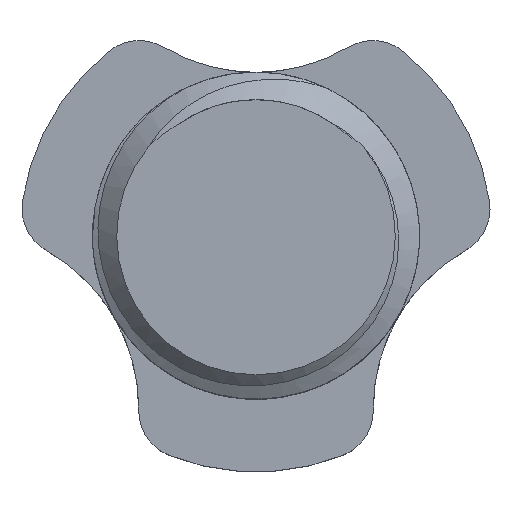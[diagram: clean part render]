
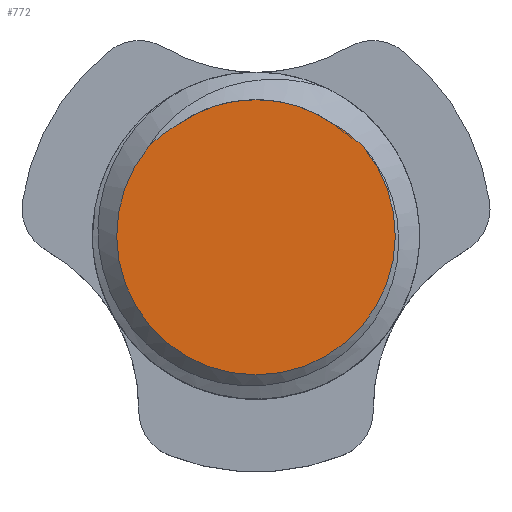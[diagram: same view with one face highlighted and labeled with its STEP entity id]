
A CAD part, top view. The second image highlights one B-rep face of the part: STEP entity #772.
In plain terms, the highlighted planar face has unit normal (0, 0, 1).
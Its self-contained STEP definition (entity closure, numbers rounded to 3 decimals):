
#37=PLANE('',#865);
#81=FACE_OUTER_BOUND('',#126,.T.);
#126=EDGE_LOOP('',(#703,#704,#705,#706));
#127=CIRCLE('',#788,5.617);
#161=CIRCLE('',#859,5.761);
#185=B_SPLINE_CURVE_WITH_KNOTS('',3,(#2458,#2459,#2460,#2461,#2462,#2463,
#2464,#2465,#2466,#2467,#2468,#2469,#2470),.UNSPECIFIED.,.F.,.F.,(4,3,3,
3,4),(1.145,1.194,1.245,1.292,
1.295),.UNSPECIFIED.);
#187=B_SPLINE_CURVE_WITH_KNOTS('',3,(#2763,#2764,#2765,#2766,#2767,#2768,
#2769,#2770,#2771,#2772,#2773,#2774,#2775),.UNSPECIFIED.,.F.,.F.,(4,3,3,
3,4),(0.,0.049,0.078,0.126,0.15),
 .UNSPECIFIED.);
#294=VERTEX_POINT('',#1082);
#295=VERTEX_POINT('',#1098);
#360=VERTEX_POINT('',#1676);
#361=VERTEX_POINT('',#1951);
#367=EDGE_CURVE('',#295,#294,#127,.T.);
#467=EDGE_CURVE('',#360,#361,#161,.T.);
#473=EDGE_CURVE('',#360,#295,#185,.T.);
#475=EDGE_CURVE('',#294,#361,#187,.T.);
#703=ORIENTED_EDGE('',*,*,#467,.F.);
#704=ORIENTED_EDGE('',*,*,#473,.T.);
#705=ORIENTED_EDGE('',*,*,#367,.T.);
#706=ORIENTED_EDGE('',*,*,#475,.T.);
#772=ADVANCED_FACE('',(#81),#37,.T.);
#788=AXIS2_PLACEMENT_3D('',#1099,#871,#872);
#859=AXIS2_PLACEMENT_3D('',#1952,#1063,#1064);
#865=AXIS2_PLACEMENT_3D('',#2909,#1075,#1076);
#871=DIRECTION('center_axis',(0.,0.,1.));
#872=DIRECTION('ref_axis',(1.,0.,0.));
#1063=DIRECTION('center_axis',(0.,0.,-1.));
#1064=DIRECTION('ref_axis',(1.,0.,0.));
#1075=DIRECTION('center_axis',(0.,0.,1.));
#1076=DIRECTION('ref_axis',(1.,0.,0.));
#1082=CARTESIAN_POINT('',(-3.261,4.573,9.));
#1098=CARTESIAN_POINT('',(3.261,4.573,9.));
#1099=CARTESIAN_POINT('Origin',(0.,0.,9.));
#1676=CARTESIAN_POINT('',(4.443,3.668,9.));
#1951=CARTESIAN_POINT('',(-4.443,3.668,9.));
#1952=CARTESIAN_POINT('Origin',(0.,0.,9.));
#2458=CARTESIAN_POINT('Ctrl Pts',(4.442,3.667,9.));
#2459=CARTESIAN_POINT('Ctrl Pts',(4.327,3.782,9.));
#2460=CARTESIAN_POINT('Ctrl Pts',(4.208,3.892,9.));
#2461=CARTESIAN_POINT('Ctrl Pts',(4.084,3.996,9.));
#2462=CARTESIAN_POINT('Ctrl Pts',(3.956,4.104,9.));
#2463=CARTESIAN_POINT('Ctrl Pts',(3.823,4.207,9.));
#2464=CARTESIAN_POINT('Ctrl Pts',(3.686,4.303,9.));
#2465=CARTESIAN_POINT('Ctrl Pts',(3.557,4.394,9.));
#2466=CARTESIAN_POINT('Ctrl Pts',(3.424,4.479,9.));
#2467=CARTESIAN_POINT('Ctrl Pts',(3.287,4.558,9.));
#2468=CARTESIAN_POINT('Ctrl Pts',(3.278,4.563,9.));
#2469=CARTESIAN_POINT('Ctrl Pts',(3.27,4.568,9.));
#2470=CARTESIAN_POINT('Ctrl Pts',(3.261,4.573,9.));
#2763=CARTESIAN_POINT('Ctrl Pts',(-3.261,4.573,9.));
#2764=CARTESIAN_POINT('Ctrl Pts',(-3.402,4.493,9.));
#2765=CARTESIAN_POINT('Ctrl Pts',(-3.538,4.406,9.));
#2766=CARTESIAN_POINT('Ctrl Pts',(-3.671,4.314,9.));
#2767=CARTESIAN_POINT('Ctrl Pts',(-3.752,4.258,9.));
#2768=CARTESIAN_POINT('Ctrl Pts',(-3.831,4.2,9.));
#2769=CARTESIAN_POINT('Ctrl Pts',(-3.908,4.14,9.));
#2770=CARTESIAN_POINT('Ctrl Pts',(-4.035,4.041,9.));
#2771=CARTESIAN_POINT('Ctrl Pts',(-4.157,3.938,9.));
#2772=CARTESIAN_POINT('Ctrl Pts',(-4.275,3.829,9.));
#2773=CARTESIAN_POINT('Ctrl Pts',(-4.332,3.776,9.));
#2774=CARTESIAN_POINT('Ctrl Pts',(-4.388,3.723,9.));
#2775=CARTESIAN_POINT('Ctrl Pts',(-4.442,3.668,9.));
#2909=CARTESIAN_POINT('Origin',(0.,0.,9.));
